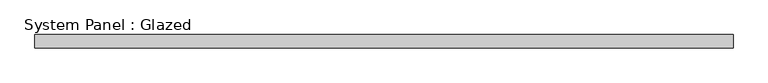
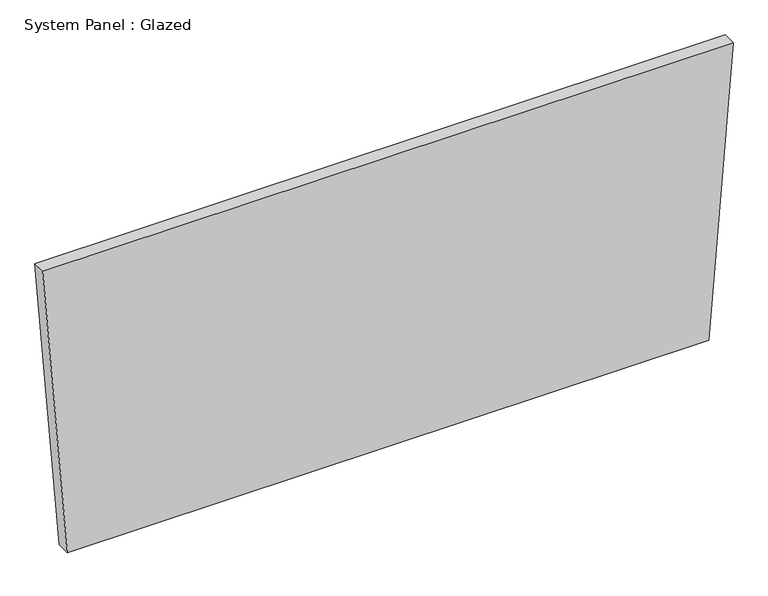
"""IFC4 building model written with IfcOpenShell, lengths in millimetres: plate geometry, System Panel : Glazed."""

from ifc_helpers import new_model, si_unit, frame, origin, place, context, project, spatial, polyline, outline, extrude, source, transform, mapped, element, save


def system_panel_glazed_23d094c6(model_context):
    return source(origin(), model_context, "Body", "SweptSolid", [
        extrude(outline(polyline([(0.0, -610.0304306), (0.0, 610.0304306), (582.247707, 656.7412956), (582.247707, -656.7412956), (0.0, -610.0304306)])), frame((0.0, -44.45, 0.0), z_axis=(0.0, 1.0, 0.0), x_axis=(0.0, 0.0, 1.0)), (0.0, 0.0, 1.0), 25.4),
    ])


if __name__ == "__main__":
    model = new_model("IFC4")
    model_context = context("Model", 3, world=origin())
    ifc_project = project(units=[si_unit("LENGTHUNIT", "METRE", prefix="MILLI")], contexts=[model_context])
    site = spatial("IfcSite", under=ifc_project)
    building = spatial("IfcBuilding", under=site)
    placement = place(None, origin())
    system_panel_glazed_shape = system_panel_glazed_23d094c6(model_context)
    element("IfcPlate", 1, ObjectType="System Panel : Glazed", at=placement, inside=building, context=model_context, shape_type="MappedRepresentation", body=[
        mapped(system_panel_glazed_shape, transform((0.0, 0.0, 0.0), x_axis=(1.0, 0.0, 0.0), y_axis=(0.0, 1.0, 0.0), z_axis=(0.0, 0.0, 1.0))),
    ])
    save(model, "model.ifc")
